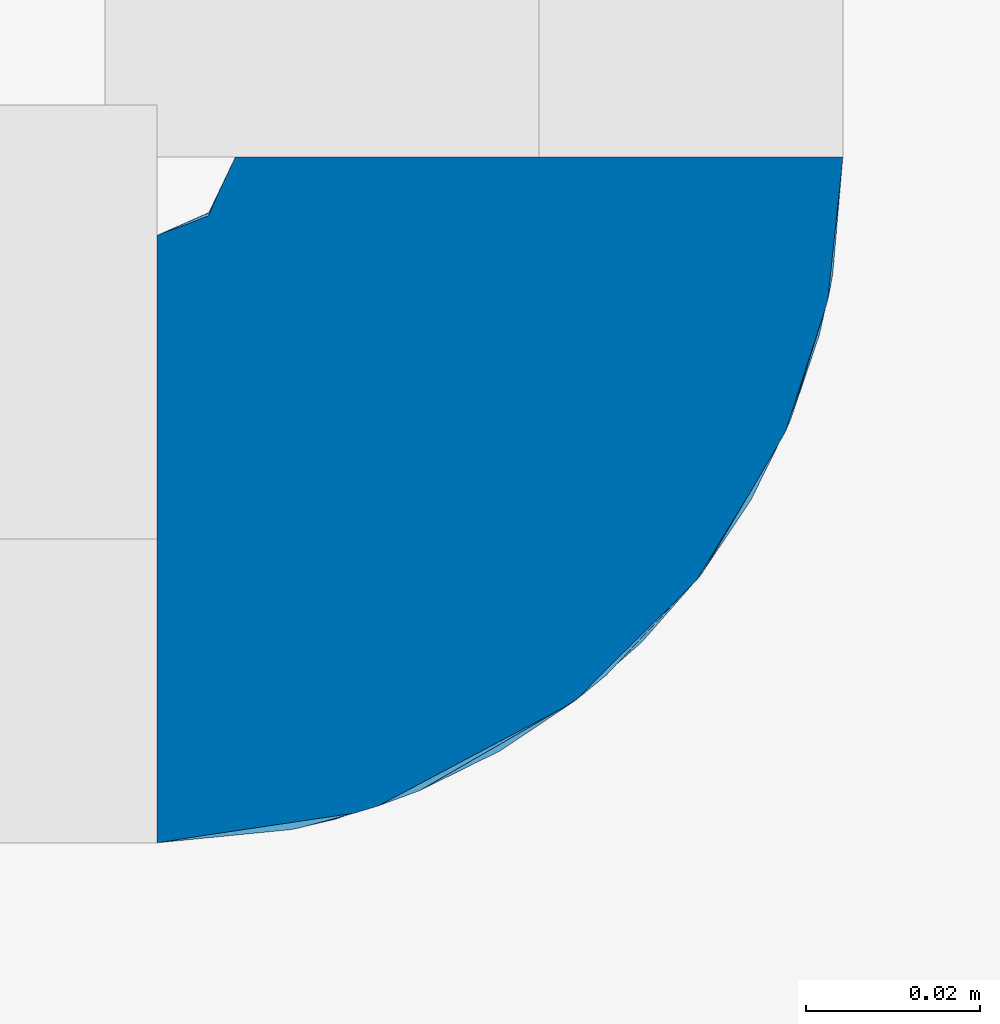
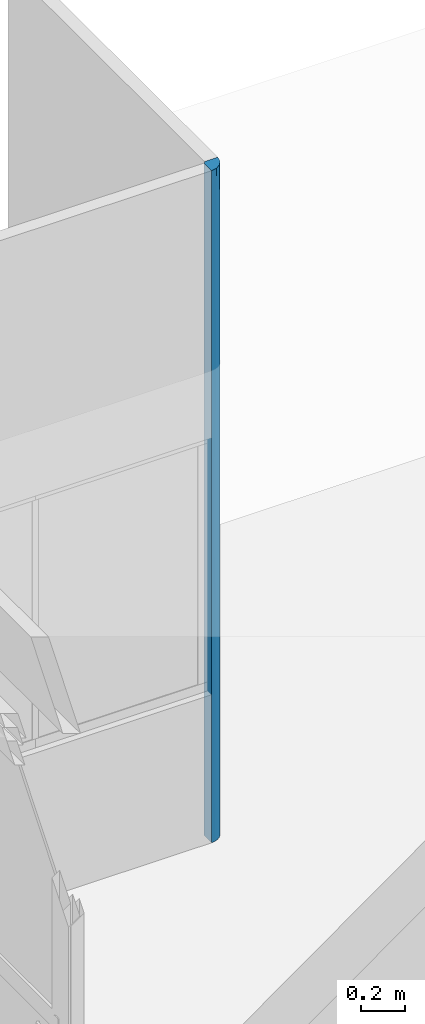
# One storey, part 13 of 19: 1 wall.
"""IFC4 building model written with IfcOpenShell, lengths in metres."""

from ifc_helpers import new_model, entity, si_unit, converted_unit, derived_unit, direction, frame, origin, place, context, subcontext, project, spatial, polygons, material, layer, layer_set, type_object, element, save


model = new_model("IFC4")

# Units and contexts
model_context = context("Model", 3, precision=1e-05, world=origin(), true_north=direction((6.12303176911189e-17, 1.0)))
body_context = subcontext(model_context, "Body", "Model", "MODEL_VIEW")
ifc_project = project(units=[si_unit("LENGTHUNIT", "METRE"), si_unit("AREAUNIT", "SQUARE_METRE"), si_unit("VOLUMEUNIT", "CUBIC_METRE"), converted_unit("PLANEANGLEUNIT", "DEGREE", entity("IfcRatioMeasure", 0.0174532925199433), si_unit("PLANEANGLEUNIT", "RADIAN"), dimensions=[0, 0, 0, 0, 0, 0, 0]), si_unit("MASSUNIT", "GRAM", prefix="KILO"), derived_unit("MASSDENSITYUNIT", [(si_unit("MASSUNIT", "GRAM", prefix="KILO"), 1), (si_unit("LENGTHUNIT", "METRE"), -3)]), derived_unit("MOMENTOFINERTIAUNIT", [(si_unit("LENGTHUNIT", "METRE"), 4)]), si_unit("TIMEUNIT", "SECOND"), si_unit("FREQUENCYUNIT", "HERTZ"), si_unit("THERMODYNAMICTEMPERATUREUNIT", "DEGREE_CELSIUS"), derived_unit("THERMALTRANSMITTANCEUNIT", [(si_unit("MASSUNIT", "GRAM", prefix="KILO"), 1), (si_unit("THERMODYNAMICTEMPERATUREUNIT", "KELVIN"), -1), (si_unit("TIMEUNIT", "SECOND"), -3)]), derived_unit("VOLUMETRICFLOWRATEUNIT", [(si_unit("LENGTHUNIT", "METRE"), 3), (si_unit("TIMEUNIT", "SECOND"), -1)]), si_unit("ELECTRICCURRENTUNIT", "AMPERE"), si_unit("ELECTRICVOLTAGEUNIT", "VOLT"), si_unit("POWERUNIT", "WATT"), si_unit("FORCEUNIT", "NEWTON", prefix="KILO"), si_unit("ILLUMINANCEUNIT", "LUX"), si_unit("LUMINOUSFLUXUNIT", "LUMEN"), si_unit("LUMINOUSINTENSITYUNIT", "CANDELA"), derived_unit("USERDEFINED", [(si_unit("MASSUNIT", "GRAM", prefix="KILO"), -1), (si_unit("LENGTHUNIT", "METRE"), -2), (si_unit("TIMEUNIT", "SECOND"), 3), (si_unit("LUMINOUSFLUXUNIT", "LUMEN"), 1)]), derived_unit("LINEARVELOCITYUNIT", [(si_unit("LENGTHUNIT", "METRE"), 1), (si_unit("TIMEUNIT", "SECOND"), -1)]), si_unit("PRESSUREUNIT", "PASCAL"), derived_unit("USERDEFINED", [(si_unit("LENGTHUNIT", "METRE"), -2), (si_unit("MASSUNIT", "GRAM", prefix="KILO"), 1), (si_unit("TIMEUNIT", "SECOND"), -2)]), derived_unit("LINEARFORCEUNIT", [(si_unit("MASSUNIT", "GRAM", prefix="KILO"), 1), (si_unit("LENGTHUNIT", "METRE"), 1), (si_unit("TIMEUNIT", "SECOND"), -2), (si_unit("LENGTHUNIT", "METRE"), -1)]), derived_unit("PLANARFORCEUNIT", [(si_unit("MASSUNIT", "GRAM", prefix="KILO"), 1), (si_unit("LENGTHUNIT", "METRE"), 1), (si_unit("TIMEUNIT", "SECOND"), -2), (si_unit("LENGTHUNIT", "METRE"), -2)])], contexts=[model_context])

# Site, building, storey
site_placement = place(None, origin())
site = spatial("IfcSite", under=ifc_project, at=site_placement, Name="Default", CompositionType="ELEMENT")
building_placement = place(site_placement, origin())
building = spatial("IfcBuilding", under=site, at=building_placement, Name="HOTEL CONSULAIRE BOULOGNE SUR MER", CompositionType="ELEMENT")
storey_placement = place(building_placement, frame((0.0, 0.0, -4.01003075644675)))
storey = spatial("IfcBuildingStorey", under=building, at=storey_placement, Name="SS2", CompositionType="ELEMENT", Elevation=-4.01003075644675)

# Wall
ifc_material = material(Name="Mur par défaut", Category="Divers")
ifc_layer = layer(ifc_material, 0.07, Name="Mur par défaut", Category="Divers")
ifc_layer_set = layer_set([ifc_layer], Name="Mur de base:Générique - Int. 70 mm")
wall_type = type_object("IfcWallType", Name="Mur de base:Générique - Int. 70 mm", PredefinedType="NOTDEFINED", material=ifc_layer_set)
wall_placement = place(storey_placement, frame((-11.5529610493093, -12.2801492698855, 0.0)))
element("IfcWall", 1, at=wall_placement, inside=storey, type_object=wall_type, material=ifc_layer_set, Name="Mur de base:Générique - Int. 70 mm", ObjectType="Mur de base:Générique - Int. 70 mm", PredefinedType="NOTDEFINED", context=body_context, shape_type="Tessellation", body=[
    polygons([(0.00900000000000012, 0.0440000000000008, 0.0), (0.0789999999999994, 0.0440000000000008, 0.0), (0.0763081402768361, 0.0235532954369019, 0.0), (0.0684160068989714, 0.00450000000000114, 0.0), (0.0558614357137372, -0.0118614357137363, 0.0), (0.0394999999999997, -0.0244160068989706, 0.0), (0.0204467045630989, -0.0323081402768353, 0.0), (0.0, -0.0349999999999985, 0.0), (0.0, 0.0350000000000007, 0.0), (0.00232937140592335, 0.0353066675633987, 0.0), (0.00449999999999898, 0.0362057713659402, 0.0), (0.00636396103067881, 0.037636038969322, 0.0), (0.00779422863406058, 0.0395000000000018, 0.0), (0.00869333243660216, 0.0416706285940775, 0.0), (0.0, 0.0350000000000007, 3.74003075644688), (0.00636396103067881, 0.037636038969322, 3.74003075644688), (0.00900000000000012, 0.0440000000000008, 3.74003075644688), (0.0, 0.0350000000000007, 0.824265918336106), (0.0, 0.0350000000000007, 2.25353263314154), (0.00900000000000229, 0.044000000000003, 1.87001537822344), (0.00900000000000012, 0.0440000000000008, 2.80502306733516), (0.00900000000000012, 0.0440000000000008, 0.935007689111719), (0.00900000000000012, 0.0440000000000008, 2.3375192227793), (0.00900000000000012, 0.0440000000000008, 0.46750384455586), (0.00900000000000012, 0.0440000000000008, 2.10376730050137), (0.00900000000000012, 0.0440000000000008, 0.701255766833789), (0.00900000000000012, 0.0440000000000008, 2.22064326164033), (0.00900000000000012, 0.0440000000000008, 0.818131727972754), (0.0, 0.0350000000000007, 2.99678157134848), (0.0, 0.0350000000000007, 1.53889927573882), (0.0, 0.0350000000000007, 0.412132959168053), (0.0, 0.0350000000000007, 2.62515710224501), (0.0, 0.0350000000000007, 1.89621597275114), (0.0, 0.0350000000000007, 2.81096933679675), (0.0, 0.0350000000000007, 1.1815825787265), (0.0, 0.0350000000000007, 0.61819943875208), (0.0, 0.0349999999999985, 2.43934486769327), (0.0, 0.0350000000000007, 2.07487430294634), (0.0, 0.0350000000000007, 1.0029242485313), (0.0, 0.0350000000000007, 0.721232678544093), (0.00900000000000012, 0.044000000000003, 3.27252691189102), (0.00900000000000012, 0.0440000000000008, 0.584379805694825), (0.00900000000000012, 0.0440000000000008, 0.23375192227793), (0.00900000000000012, 0.0440000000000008, 2.57127114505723), (0.00900000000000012, 0.0440000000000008, 3.03877498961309), (0.00900000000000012, 0.0440000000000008, 1.40251153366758), (0.00900000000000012, 0.0440000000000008, 2.45439518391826), (0.00900000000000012, 0.0440000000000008, 1.16875961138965), (0.00900000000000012, 0.0440000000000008, 1.63626345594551), (0.00900000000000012, 0.0440000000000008, 1.05188365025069), (0.00900000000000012, 0.0440000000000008, 1.51938749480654), (0.0, 0.0350000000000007, 3.36840604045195), (0.0, 0.0350000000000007, 0.206066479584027), (0.0, 0.0350000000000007, 1.71755764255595), (0.0, 0.0350000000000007, 1.36024090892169), (0.0, 0.0350000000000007, 3.18259380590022), (0.00900000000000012, 0.0440000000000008, 3.50627883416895), (0.00900000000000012, 0.0440000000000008, 3.38940287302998), (0.00900000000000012, 0.0440000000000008, 3.15565095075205), (0.00900000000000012, 0.0440000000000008, 1.75313941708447), (0.0, 0.0350000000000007, 3.55421852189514), (0.0, 0.0350000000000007, 0.104751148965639), (0.00900000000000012, 0.0440000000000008, 0.116875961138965), (0.00900000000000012, 0.0440000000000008, 0.175313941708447), (0.00900000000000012, 0.0440000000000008, 0.0523755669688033), (0.0, 0.0350000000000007, 0.0523755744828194), (0.0, 0.0350000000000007, 3.63527965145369), (0.00900000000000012, 0.0440000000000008, 3.62315479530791), (0.00900000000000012, 0.0440000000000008, 3.68765518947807), (0.0, 0.0350000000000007, 3.68765520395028), (0.00900000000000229, 0.044000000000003, 1.9868913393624), (0.0, 0.0350000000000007, 1.98554513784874), (0.00900000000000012, 0.0440000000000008, 2.92189902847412), (0.0, 0.0350000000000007, 2.90387533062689), (0.00900000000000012, 0.0440000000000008, 1.28563557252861), (0.00636396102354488, 0.0376360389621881, 0.078563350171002), (0.00636396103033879, 0.037636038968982, 3.66146740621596), (0.0, 0.0350000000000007, 0.155408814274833), (0.0060545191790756, 0.0373409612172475, 0.180737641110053), (0.00900000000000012, 0.0439999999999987, 0.350627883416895), (0.00900000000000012, 0.044000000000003, 2.68814710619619), (0.0, 0.0350000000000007, 0.30909971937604), (0.0, 0.0350000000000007, 0.257583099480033), (0.00900000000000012, 0.0440000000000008, 0.292189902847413), (0.00606842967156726, 0.037353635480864, 0.283341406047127), (0.00599748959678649, 0.037289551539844, 0.338557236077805), (0.00900000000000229, 0.044000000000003, 0.409065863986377), (0.00607428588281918, 0.0373589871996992, 3.60555342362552), (0.00900000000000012, 0.0440000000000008, 3.56471681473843), (0.0, 0.0350000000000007, 0.515166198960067), (0.00644729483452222, 0.037720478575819, 0.43828486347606), (0.00648904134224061, 0.0377636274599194, 0.494018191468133), (0.0, 0.0350000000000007, 0.566682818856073), (0.00900000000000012, 0.0440000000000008, 0.525941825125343), (0.00606155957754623, 0.0373473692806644, 0.592441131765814), (0.00900000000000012, 0.0440000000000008, 0.642817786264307), (0.0, 0.0350000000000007, 0.669716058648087), (0.00604524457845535, 0.0373325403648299, 0.695474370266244), (0.00900000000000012, 0.0440000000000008, 0.759693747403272), (0.0, 0.0350000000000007, 0.7727492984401), (0.00622497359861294, 0.037500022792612, 0.798507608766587), (0.0, 0.0350000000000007, 0.913595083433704), (0.00900000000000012, 0.0440000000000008, 0.876569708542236), (0.006097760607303, 0.0373805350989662, 0.855467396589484), (0.0, 0.0350000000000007, 3.46131228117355), (0.00578323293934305, 0.0371040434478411, 0.643953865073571), (0.00660764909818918, 0.0378894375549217, 3.53549782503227), (0.00651824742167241, 0.037794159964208, 3.48027903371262), (0.0, 0.0350000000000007, 3.41485916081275), (0.00609453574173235, 0.0373775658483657, 3.39163275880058), (0.00900000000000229, 0.044000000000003, 3.3309648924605), (0.0, 0.0350000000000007, 3.27549979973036), (0.00900000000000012, 0.0440000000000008, 3.44784085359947), (0.00584183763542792, 0.0371536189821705, 3.33609267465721), (0.0057710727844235, 0.0370938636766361, 0.23204310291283), (0.0, 0.0350000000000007, 0.360616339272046), (0.00579231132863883, 0.0371116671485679, 0.747046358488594), (0.00566231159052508, 0.0370044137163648, 0.542976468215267), (0.00580254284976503, 0.0371202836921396, 0.129534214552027), (0.0, 0.0350000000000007, 0.46364957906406), (0.0, 0.0350000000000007, 2.16420346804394), (0.0, 0.0350000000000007, 3.08968781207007), (0.0, 0.0350000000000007, 1.80688680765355), (0.00573862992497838, 0.0370668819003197, 0.388627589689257), (0.0, 0.0350000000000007, 3.50776540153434), (0.0, 0.0350000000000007, 1.44957007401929), (0.0, 0.0350000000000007, 3.32195292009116), (0.0, 0.0350000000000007, 2.53225086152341), (0.0, 0.0350000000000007, 1.0922534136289), (0.0, 0.0350000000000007, 1.62822847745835), (0.00900000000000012, 0.0440000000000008, 2.27908124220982), (0.0, 0.0350000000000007, 2.34643887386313), (0.00606037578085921, 0.0373462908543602, 2.30830023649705), (0.00676520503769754, 0.0380643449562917, 2.2498622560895), (0.00636868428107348, 0.0376407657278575, 2.19233862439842), (0.00900000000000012, 0.0440000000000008, 2.16220528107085), (0.00630672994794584, 0.0375793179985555, 2.1343417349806), (0.00654386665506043, 0.0378211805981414, 2.36269512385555), (0.00899999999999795, 0.0440000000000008, 2.39595720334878), (0.00667820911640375, 0.0379666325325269, 2.42517619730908), (0.00599699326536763, 0.0372891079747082, 2.48867992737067), (0.00900000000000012, 0.0440000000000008, 2.51283316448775), (0.0065845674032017, 0.0378645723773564, 2.08145176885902), (0.00900000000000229, 0.044000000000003, 2.04532931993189), (0.0, 0.0350000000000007, 2.03020972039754), (0.00633508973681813, 0.0376072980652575, 2.00787741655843), (0.00900000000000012, 0.0440000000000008, 1.92845335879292), (0.00593007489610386, 0.0372299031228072, 1.94954720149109), (0.0, 0.0350000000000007, 2.39289199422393), (0.00669286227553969, 0.0379828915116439, 2.54299216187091), (0.00900000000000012, 0.0440000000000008, 2.62970912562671), (0.0, 0.0350000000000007, 2.7180633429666), (0.00646018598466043, 0.0377337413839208, 2.60003562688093), (0.00619029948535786, 0.0374669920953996, 2.65940603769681), (0.00900000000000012, 0.0440000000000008, 2.74658508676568), (0.00617206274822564, 0.0374497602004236, 2.77580407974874), (0.0067711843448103, 0.0380711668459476, 2.71736609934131), (0.00649874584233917, 0.0377737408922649, 2.8311899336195), (0.00900000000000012, 0.0440000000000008, 2.86346104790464), (0.00671341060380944, 0.03800582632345, 2.89268004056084), (0.00605311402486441, 0.0373396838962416, 2.9552349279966), (0.00900000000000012, 0.0440000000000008, 2.98033700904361), (0.00667750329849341, 0.0379658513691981, 3.01002126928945), (0.00900000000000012, 0.044000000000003, 3.09721297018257), (0.00611410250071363, 0.037395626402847, 3.1264319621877), (0.00647230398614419, 0.0377462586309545, 3.06640417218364), (0.00662906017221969, 0.0379126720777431, 3.17930162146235), (0.00900000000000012, 0.0440000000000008, 3.21408893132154), (0.0, 0.0350000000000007, 3.22904667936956), (0.00629978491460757, 0.037572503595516, 3.25227355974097), (0.0, 0.0350000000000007, 2.85742221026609), (0.0, 0.0350000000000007, 3.04323469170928), (0.0, 0.0350000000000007, 2.57870398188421), (0.00900000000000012, 0.0440000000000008, 0.993445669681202), (0.00603815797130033, 0.0373261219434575, 0.964226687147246), (0.00658901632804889, 0.0378693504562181, 1.02266466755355), (0.00656269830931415, 0.0378411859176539, 1.0771328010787), (0.0, 0.0350000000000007, 1.1369179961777), (0.00615911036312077, 0.0374375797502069, 1.15925030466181), (0.0, 0.0350000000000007, 1.2709117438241), (0.00900000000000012, 0.0440000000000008, 1.22719759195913), (0.00900000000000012, 0.0440000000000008, 1.11032163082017), (0.00583011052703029, 0.0371436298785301, 1.21578901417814), (0.00662901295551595, 0.0379126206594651, 0.911495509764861), (0.00900000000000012, 0.0440000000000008, 1.69470143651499), (0.00609473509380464, 0.0373777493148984, 1.66548245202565), (0.0067527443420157, 0.0380501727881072, 1.72392043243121), (0.00640767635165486, 0.0376800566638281, 1.78083924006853), (0.00625168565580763, 0.0375257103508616, 1.84023580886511), (0.00900000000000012, 0.0440000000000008, 1.81157739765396), (0.00653183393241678, 0.0378084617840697, 1.61080896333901), (0.00900000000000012, 0.0440000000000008, 1.57782547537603), (0.00672786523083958, 0.0380220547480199, 1.54860649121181), (0.0061483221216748, 0.0374274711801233, 1.48755445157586), (0.00900000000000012, 0.0440000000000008, 1.46094951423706), (0.00662290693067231, 0.0379059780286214, 1.431730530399), (0.00654520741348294, 0.0378226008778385, 1.3769718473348), (0.0, 0.0350000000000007, 1.3155763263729), (0.00614251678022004, 0.0374220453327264, 1.29324405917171), (0.00900000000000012, 0.0440000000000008, 1.3440735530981), (0.00661686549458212, 0.0378994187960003, 1.89309128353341), (0.0, 0.0350000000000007, 2.29998575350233), (0.0, 0.0350000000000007, 2.48579774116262), (0.0, 0.0350000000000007, 2.67161022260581), (0.0, 0.0350000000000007, 2.7645164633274), (0.0, 0.0350000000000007, 2.95032845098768), (0.0, 0.0350000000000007, 3.13614093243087), (0.0, -0.0349999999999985, 3.74003075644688), (0.0, -0.0349999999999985, 0.824265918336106), (0.0, -0.0349999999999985, 2.25353263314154), (0.0789999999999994, 0.0440000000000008, 3.74003075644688), (0.0729864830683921, 0.013768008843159, 3.74003075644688), (0.0558614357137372, -0.0118614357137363, 3.74003075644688), (0.0302319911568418, -0.0289864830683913, 3.74003075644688), (0.0789999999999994, 0.0440000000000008, 2.48278971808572), (0.0789999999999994, 0.0440000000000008, 1.24139485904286), (0.0480921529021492, -0.0186749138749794, 1.24407329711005), (0.0729864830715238, 0.0137680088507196, 0.80483010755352), (0.0438900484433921, -0.0216860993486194, 2.65079736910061), (0.030231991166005, -0.0289864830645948, 0.689446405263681), (0.0708701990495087, 0.00909419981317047, 1.80700836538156), (0.0789999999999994, 0.044000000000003, 0.62069742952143), (0.0626749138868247, -0.00409215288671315, 0.508918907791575), (0.0, -0.0349999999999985, 2.99678169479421), (0.0656860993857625, 0.000109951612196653, 3.01834972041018), (0.0480921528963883, -0.0186749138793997, 0.422890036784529), (0.0, -0.0349999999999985, 1.53889927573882), (0.0304306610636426, -0.0289038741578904, 1.8962159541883), (0.0789999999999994, 0.0439999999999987, 3.1114102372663), (0.0, -0.0349999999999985, 0.310349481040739), (0.075883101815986, 0.0220283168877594, 2.79710457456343), (0.0675978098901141, 0.00311557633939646, 2.40522575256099), (0.0543202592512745, -0.0133612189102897, 1.95609627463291), (0.0628042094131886, -0.00392318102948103, 1.03515868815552), (0.0721651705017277, 0.0118567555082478, 1.30724750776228), (0.0789999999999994, 0.0440000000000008, 1.86209228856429), (0.0767164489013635, 0.0251429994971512, 2.172446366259), (0.0770814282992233, 0.0266952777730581, 1.61318794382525), (0.0606996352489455, -0.00656238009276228, 1.51756836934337), (0.0729864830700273, 0.0137680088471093, 0.366913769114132), (0.0778342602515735, 0.030478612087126, 0.368168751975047), (0.0775346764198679, 0.0288549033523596, 0.737269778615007), (0.0245577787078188, -0.0310860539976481, 1.29341801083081), (0.0438900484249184, -0.0216860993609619, 3.25443551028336), (0.0246416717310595, -0.0310585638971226, 2.9526164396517), (0.0252212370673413, -0.0308658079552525, 2.41666991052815), (0.0, -0.0349999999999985, 3.36840622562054), (0.0130830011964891, -0.032397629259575, 3.74003075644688), (0.0219323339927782, -0.0318944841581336, 3.36986605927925), (0.0764134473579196, 0.0239504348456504, 3.3001986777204), (0.0772351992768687, 0.0273950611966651, 1.22652321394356), (0.0302319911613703, -0.0289864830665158, 0.303280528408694), (0.0154913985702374, -0.0334662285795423, 0.496363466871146), (0.0164112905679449, -0.033276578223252, 0.882288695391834), (0.0, -0.0349999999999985, 1.1815863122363), (0.051748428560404, -0.0156917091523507, 0.833481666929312), (0.0702510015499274, 0.00786418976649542, 3.36486517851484), (0.0606303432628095, -0.00664544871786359, 3.3713111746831), (0.0547944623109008, -0.0129084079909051, 3.03142176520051), (0.0644239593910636, 0.000953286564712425, 3.74003075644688), (0.0579061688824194, -0.00973895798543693, 2.61577640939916), (0.0503908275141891, -0.0168421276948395, 2.31814449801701), (0.0426988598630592, -0.0224665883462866, 2.04288587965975), (0.0425463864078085, -0.0225642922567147, 1.62813420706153), (0.0, -0.0350000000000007, 1.89621223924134), (0.0155176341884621, -0.0334609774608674, 1.71755761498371), (0.0171720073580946, -0.0331111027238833, 2.09273414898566), (0.0645844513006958, -0.00149558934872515, 2.05180254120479), (0.0430467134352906, -0.0204239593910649, 3.74003075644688), (0.0, -0.0349999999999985, 2.62515716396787), (0.0759932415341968, 0.0288840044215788, 3.74003075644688)], [[[7, 8, 9, 10, 11, 12, 13, 14, 1, 2, 3, 4, 5, 6]], [[109, 105, 125, 108]], [[71, 147, 148]], [[13, 12, 76]], [[115, 83, 85]], [[103, 28, 104]], [[82, 85, 83]], [[104, 28, 101]], [[21, 155, 156]], [[172, 166, 163]], [[19, 134, 135]], [[123, 188, 54]], [[64, 119, 79]], [[191, 186, 49]], [[70, 15, 16, 77, 67]], [[76, 66, 62]], [[65, 14, 13]], [[65, 13, 76]], [[88, 77, 68]], [[133, 132, 138]], [[100, 18, 101]], [[133, 138, 23]], [[98, 96, 106]], [[136, 135, 27]], [[153, 154, 151]], [[146, 148, 72]], [[156, 34, 158]], [[179, 183, 48]], [[98, 97, 40]], [[44, 150, 153]], [[135, 134, 27]], [[177, 176, 129]], [[99, 117, 101]], [[91, 120, 92]], [[128, 150, 141]], [[160, 159, 158]], [[11, 66, 76]], [[140, 139, 138]], [[177, 179, 182]], [[30, 191, 193]], [[176, 39, 129]], [[126, 194, 196]], [[185, 186, 187]], [[150, 173, 153]], [[31, 124, 116]], [[194, 193, 51]], [[52, 110, 114]], [[108, 107, 57]], [[58, 114, 110]], [[123, 189, 188]], [[191, 130, 186]], [[146, 143, 144]], [[78, 53, 79]], [[12, 11, 76]], [[64, 63, 119]], [[65, 1, 14]], [[10, 66, 11]], [[10, 9, 66]], [[17, 69, 68, 77, 16]], [[65, 76, 63]], [[25, 143, 137]], [[161, 160, 74]], [[163, 161, 29]], [[35, 183, 179]], [[197, 196, 46]], [[88, 67, 77]], [[78, 119, 62]], [[76, 62, 119]], [[64, 79, 43]], [[43, 115, 85]], [[124, 87, 80]], [[85, 82, 86]], [[84, 43, 85]], [[53, 115, 79]], [[85, 86, 84]], [[80, 84, 86]], [[91, 87, 124]], [[86, 116, 124]], [[88, 61, 67]], [[24, 87, 91]], [[94, 118, 42]], [[89, 57, 107]], [[88, 68, 89]], [[92, 24, 91]], [[31, 91, 124]], [[118, 95, 42]], [[93, 36, 95]], [[94, 24, 92]], [[90, 118, 92]], [[118, 93, 95]], [[96, 42, 95]], [[95, 36, 106]], [[26, 96, 98]], [[97, 106, 36]], [[117, 99, 26]], [[98, 40, 117]], [[28, 99, 101]], [[117, 100, 101]], [[175, 22, 184]], [[175, 102, 39]], [[18, 104, 101]], [[22, 103, 184]], [[104, 18, 102]], [[61, 88, 107]], [[95, 106, 96]], [[98, 106, 97]], [[89, 107, 88]], [[108, 125, 107]], [[108, 110, 109]], [[108, 113, 110]], [[111, 41, 114, 58]], [[109, 110, 52]], [[127, 52, 114, 112]], [[170, 41, 168]], [[58, 110, 113]], [[108, 57, 113]], [[170, 112, 114]], [[83, 115, 53]], [[79, 115, 43]], [[100, 117, 40]], [[86, 82, 116]], [[26, 98, 117]], [[93, 118, 90]], [[92, 118, 94]], [[76, 119, 63]], [[79, 119, 78]], [[90, 92, 120]], [[91, 31, 120]], [[166, 122, 165]], [[166, 45, 163]], [[54, 188, 187]], [[80, 86, 124]], [[61, 107, 125]], [[196, 197, 126]], [[140, 37, 141]], [[175, 176, 174]], [[131, 27, 134]], [[202, 132, 133, 19]], [[133, 23, 131]], [[134, 19, 133]], [[131, 134, 133]], [[121, 19, 135]], [[121, 135, 137]], [[137, 135, 136]], [[121, 137, 38]], [[143, 38, 137]], [[137, 136, 25]], [[140, 47, 139]], [[138, 149, 140]], [[139, 23, 138]], [[47, 140, 141]], [[141, 150, 142]], [[142, 47, 141]], [[203, 128, 141, 37]], [[145, 38, 143]], [[44, 142, 150]], [[145, 146, 72]], [[201, 148, 147]], [[143, 25, 144]], [[143, 146, 145]], [[71, 146, 144]], [[148, 33, 72]], [[71, 148, 146]], [[189, 33, 201]], [[37, 140, 149]], [[138, 132, 149]], [[173, 150, 128]], [[153, 151, 44]], [[154, 157, 81]], [[154, 153, 32]], [[81, 151, 154]], [[158, 21, 156]], [[154, 204, 157]], [[155, 81, 157]], [[152, 205, 157, 204]], [[156, 157, 205]], [[155, 157, 156]], [[205, 34, 156]], [[160, 73, 159]], [[158, 171, 160]], [[159, 21, 158]], [[73, 160, 161]], [[172, 122, 166]], [[162, 73, 161]], [[206, 29, 161, 74]], [[161, 163, 162]], [[45, 162, 163]], [[172, 163, 29]], [[59, 165, 167]], [[59, 164, 165]], [[165, 207, 167]], [[166, 164, 45]], [[164, 166, 165]], [[169, 112, 170]], [[169, 167, 207, 56]], [[168, 59, 167]], [[168, 167, 170]], [[167, 169, 170]], [[41, 170, 114]], [[74, 160, 171]], [[158, 34, 171]], [[173, 32, 153]], [[22, 175, 174]], [[176, 50, 174]], [[102, 175, 184]], [[177, 50, 176]], [[39, 176, 175]], [[48, 182, 179]], [[129, 178, 177]], [[178, 179, 177]], [[179, 178, 35]], [[180, 198, 199]], [[180, 199, 183]], [[183, 181, 48]], [[182, 50, 177]], [[75, 181, 199, 200]], [[183, 35, 180]], [[184, 104, 102]], [[104, 184, 103]], [[185, 49, 186]], [[187, 60, 185]], [[186, 130, 54]], [[188, 60, 187]], [[54, 187, 186]], [[20, 190, 189]], [[188, 189, 190]], [[20, 189, 201]], [[189, 123, 33]], [[190, 60, 188]], [[191, 30, 130]], [[192, 193, 191]], [[51, 193, 192]], [[191, 49, 192]], [[126, 30, 194]], [[193, 194, 30]], [[195, 196, 194]], [[46, 196, 195]], [[194, 51, 195]], [[55, 126, 197, 198]], [[197, 200, 199]], [[199, 181, 183]], [[197, 199, 198]], [[20, 201, 147]], [[197, 46, 200]], [[201, 33, 148]], [[154, 32, 204]], [[165, 122, 207]], [[210, 270, 224, 247, 208, 15, 70, 67, 61, 125, 105, 109, 52, 127, 112, 169, 56, 207, 122, 172, 29, 206, 74, 171, 34, 205, 152, 204, 32, 173, 128, 203, 37, 149, 132, 202, 19, 121, 38, 145, 72, 33, 123, 54, 130, 30, 126, 55, 198, 180, 35, 178, 129, 39, 102, 18, 100, 40, 97, 36, 93, 90, 120, 31, 116, 82, 83, 53, 78, 62, 66, 9, 8, 230, 209, 255, 227, 265]], [[7, 252, 253]], [[234, 223, 218]], [[232, 237, 231]], [[7, 6, 252]], [[231, 215, 229]], [[6, 5, 226]], [[2, 222, 241]], [[247, 248, 208]], [[245, 219, 244]], [[4, 240, 223]], [[244, 258, 213]], [[240, 242, 218]], [[262, 261, 219]], [[226, 5, 223]], [[221, 232, 268]], [[257, 258, 225]], [[240, 241, 242]], [[234, 217, 256]], [[4, 223, 5]], [[7, 230, 8]], [[4, 3, 240]], [[235, 221, 239]], [[234, 239, 217]], [[220, 217, 243]], [[216, 236, 238]], [[217, 264, 243]], [[256, 220, 226]], [[238, 237, 221]], [[263, 246, 228]], [[231, 250, 257]], [[223, 234, 256]], [[252, 226, 220]], [[266, 265, 227]], [[254, 209, 253]], [[246, 219, 245]], [[250, 231, 229]], [[250, 211, 271, 212]], [[230, 253, 209]], [[231, 225, 232]], [[261, 225, 259]], [[262, 263, 233]], [[261, 262, 268]], [[263, 264, 233]], [[235, 234, 218]], [[239, 233, 264]], [[251, 218, 242]], [[235, 238, 221]], [[231, 237, 215]], [[237, 236, 215]], [[232, 221, 237]], [[238, 235, 251]], [[237, 238, 236]], [[235, 239, 234]], [[268, 239, 221]], [[241, 240, 3]], [[223, 240, 218]], [[2, 241, 3]], [[241, 222, 242]], [[222, 216, 242]], [[251, 216, 238]], [[265, 266, 267]], [[243, 255, 254]], [[245, 249, 224]], [[258, 259, 225]], [[247, 224, 249]], [[210, 267, 246]], [[211, 250, 229]], [[267, 266, 228]], [[244, 214, 249]], [[248, 249, 214]], [[247, 249, 248]], [[244, 249, 245]], [[257, 250, 212]], [[218, 251, 235]], [[242, 216, 251]], [[226, 252, 6]], [[253, 252, 220]], [[253, 220, 254]], [[7, 253, 230]], [[220, 243, 254]], [[220, 256, 217]], [[255, 243, 227]], [[255, 209, 254]], [[223, 256, 226]], [[257, 260, 258]], [[231, 257, 225]], [[244, 213, 269, 214]], [[259, 258, 244]], [[244, 219, 259]], [[261, 259, 219]], [[260, 257, 212]], [[260, 213, 258]], [[225, 261, 232]], [[219, 246, 263]], [[262, 233, 268]], [[263, 262, 219]], [[264, 263, 228]], [[243, 264, 228]], [[264, 217, 239]], [[266, 243, 228]], [[243, 266, 227]], [[228, 246, 267]], [[245, 270, 246]], [[265, 267, 210]], [[268, 232, 261]], [[239, 268, 233]], [[270, 245, 224]], [[270, 210, 246]], [[211, 229, 215, 236, 216, 222, 2, 1, 65, 63, 64, 43, 84, 80, 87, 24, 94, 42, 96, 26, 99, 28, 103, 22, 174, 50, 182, 48, 181, 75, 200, 46, 195, 51, 192, 49, 185, 60, 190, 20, 147, 71, 144, 25, 136, 27, 131, 23, 139, 47, 142, 44, 151, 81, 155, 21, 159, 73, 162, 45, 164, 59, 168, 41, 111, 58, 113, 57, 89, 68, 69, 17]], [[16, 15, 208, 248, 214, 269, 213, 260, 212, 271, 211, 17]]], closed=True),
])

save(model, "model.ifc")
